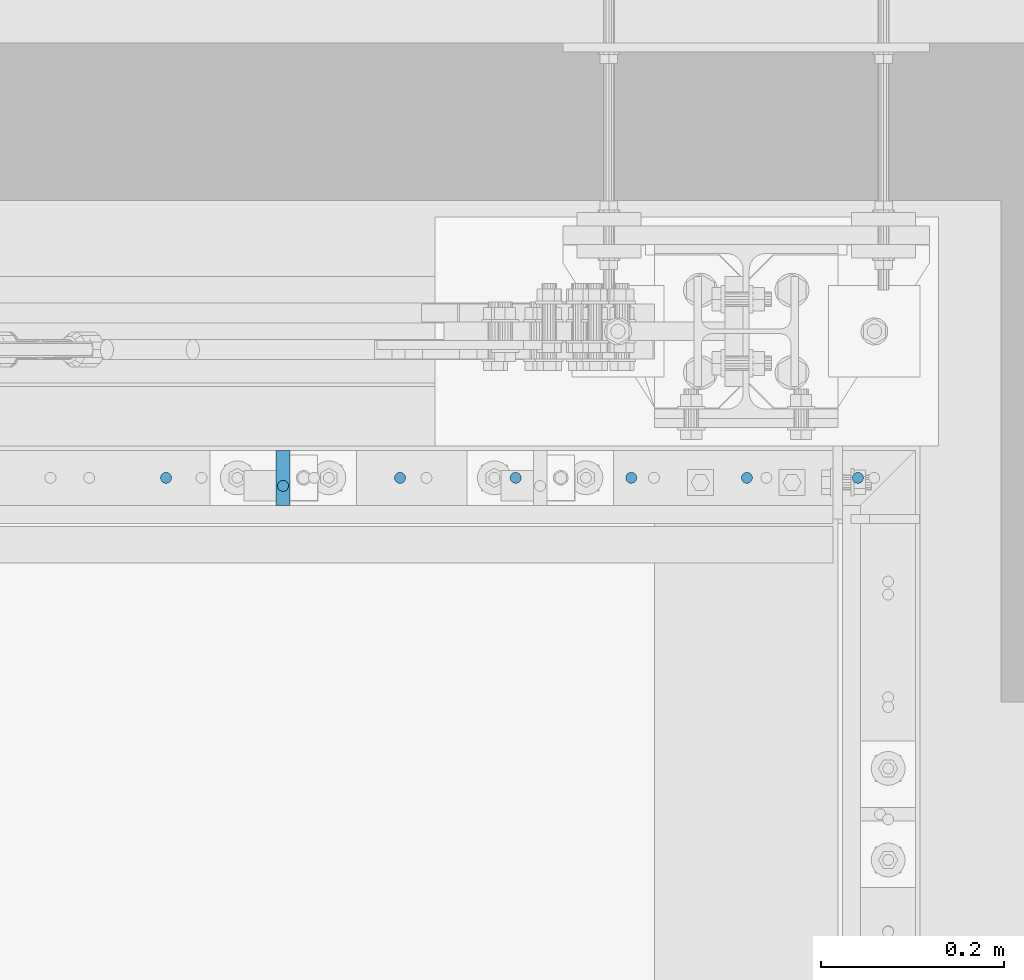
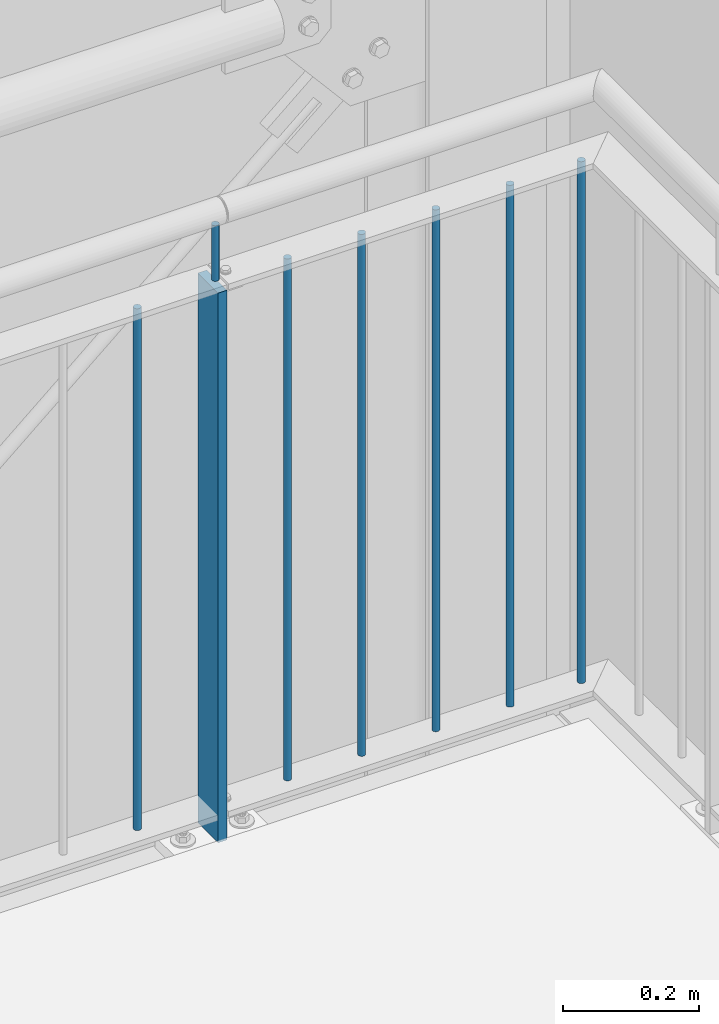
# One storey, part 111 of 831: 8 columns.
"""IFC2X3 building model written with IfcOpenShell, lengths in millimetres."""

from ifc_helpers import new_model, entity, si_unit, converted_unit, frame, origin, origin_with_axes, origin_2d, place, context, project, spatial, rectangle, circle, extrude, clip, halfspace, material, element, save


model = new_model("IFC2X3")

# Units and contexts
model_context = context("Model", 3, precision=1e-09, world=origin_with_axes())
ifc_project = project(units=[si_unit("LENGTHUNIT", "METRE", prefix="MILLI"), si_unit("AREAUNIT", "SQUARE_METRE"), si_unit("VOLUMEUNIT", "CUBIC_METRE"), converted_unit("PLANEANGLEUNIT", "DEGREE", entity("IfcPlaneAngleMeasure", 0.01745329), si_unit("PLANEANGLEUNIT", "RADIAN"), dimensions=[0, 0, 0, 0, 0, 0, 0])], contexts=[model_context])

# Site, building, storey
site_placement = place(None, origin_with_axes())
site = spatial("IfcSite", under=ifc_project, at=site_placement, Name="Site", CompositionType="ELEMENT")
building_placement = place(site_placement, origin_with_axes())
building = spatial("IfcBuilding", under=site, at=building_placement, Name="Struktur 1", CompositionType="ELEMENT")
storey_placement = place(building_placement, origin_with_axes())
storey = spatial("IfcBuildingStorey", under=building, at=storey_placement, Name="Default Storey", CompositionType="ELEMENT", Elevation=0.0)

# Columns
ifc_material = material(Name="S235JR")
column_1_placement = place(None, frame((8360.944225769, 7356.736971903, 3220.775923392), z_axis=(0.0, 0.0, 1.0), x_axis=(1.0, 0.0, 0.0)))
element("IfcColumn", 1, at=column_1_placement, inside=storey, material=ifc_material, Name="Railing_Post_Landing#3", ObjectType="Railing_Post_Landing#3", context=model_context, shape_type="Clipping", body=[
    clip(clip(extrude(rectangle(XDim=15.0, YDim=60.0, at=origin_2d()), origin(), (0.0, 0.0, -1.0), 1070.646584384), halfspace(frame((-8360.944225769, -7356.736971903, -1019.722292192), z_axis=(0.0, 0.0, 1.0), x_axis=(1.0, 0.0, 0.0)), True)), halfspace(frame((-8360.944225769, -7356.736971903, -30.924292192), z_axis=(0.0, 0.0, -1.0), x_axis=(-1.0, 0.0, 0.0)), True)),
])
column_2_placement = place(None, frame((8233.184225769, 7356.736971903, 3203.337912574), z_axis=(0.0, 0.0, 1.0), x_axis=(1.0, 0.0, 0.0)))
element("IfcColumn", 2, at=column_2_placement, inside=storey, material=ifc_material, Name="Railing_Picket_Landing#20", ObjectType="Railing_Picket_Landing#20", context=model_context, shape_type="Clipping", body=[
    clip(clip(extrude(circle(Radius=6.0, at=origin_2d()), origin(), (0.0, 0.0, -1.0), 965.770562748), halfspace(frame((-8233.184225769, -7356.736971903, -13.486281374), z_axis=(0.0, 0.0, -1.0), x_axis=(-1.0, 0.0, 0.0)), True)), halfspace(frame((-8233.184225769, -7356.736971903, -952.284281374), z_axis=(0.0, 0.0, 1.0), x_axis=(1.0, 0.0, 0.0)), True)),
])
column_3_placement = place(None, frame((8488.704225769, 7356.736971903, 3203.337912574), z_axis=(0.0, 0.0, 1.0), x_axis=(1.0, 0.0, 0.0)))
element("IfcColumn", 3, at=column_3_placement, inside=storey, material=ifc_material, Name="Railing_Picket_Landing#21", ObjectType="Railing_Picket_Landing#21", context=model_context, shape_type="Clipping", body=[
    clip(clip(extrude(circle(Radius=6.0, at=origin_2d()), origin(), (0.0, 0.0, -1.0), 965.770562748), halfspace(frame((-8488.704225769, -7356.736971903, -13.486281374), z_axis=(0.0, 0.0, -1.0), x_axis=(-1.0, 0.0, 0.0)), True)), halfspace(frame((-8488.704225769, -7356.736971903, -952.284281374), z_axis=(0.0, 0.0, 1.0), x_axis=(1.0, 0.0, 0.0)), True)),
])
column_4_placement = place(None, frame((8614.963745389, 7356.736971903, 3203.337912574), z_axis=(0.0, 0.0, 1.0), x_axis=(1.0, 0.0, 0.0)))
element("IfcColumn", 4, at=column_4_placement, inside=storey, material=ifc_material, Name="Railing_Picket_Landing#22", ObjectType="Railing_Picket_Landing#22", context=model_context, shape_type="Clipping", body=[
    clip(clip(extrude(circle(Radius=6.0, at=origin_2d()), origin(), (0.0, 0.0, -1.0), 965.770562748), halfspace(frame((-8614.963745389, -7356.736971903, -13.486281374), z_axis=(0.0, 0.0, -1.0), x_axis=(-1.0, 0.0, 0.0)), True)), halfspace(frame((-8614.963745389, -7356.736971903, -952.284281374), z_axis=(0.0, 0.0, 1.0), x_axis=(1.0, 0.0, 0.0)), True)),
])
column_5_placement = place(None, frame((8741.223265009, 7356.736971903, 3203.337912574), z_axis=(0.0, 0.0, 1.0), x_axis=(1.0, 0.0, 0.0)))
element("IfcColumn", 5, at=column_5_placement, inside=storey, material=ifc_material, Name="Railing_Picket_Landing#23", ObjectType="Railing_Picket_Landing#23", context=model_context, shape_type="Clipping", body=[
    clip(clip(extrude(circle(Radius=6.0, at=origin_2d()), origin(), (0.0, 0.0, -1.0), 965.770562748), halfspace(frame((-8741.223265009, -7356.736971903, -13.486281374), z_axis=(0.0, 0.0, -1.0), x_axis=(-1.0, 0.0, 0.0)), True)), halfspace(frame((-8741.223265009, -7356.736971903, -952.284281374), z_axis=(0.0, 0.0, 1.0), x_axis=(1.0, 0.0, 0.0)), True)),
])
column_6_placement = place(None, frame((8867.48278463, 7356.736971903, 3203.337912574), z_axis=(0.0, 0.0, 1.0), x_axis=(1.0, 0.0, 0.0)))
element("IfcColumn", 6, at=column_6_placement, inside=storey, material=ifc_material, Name="Railing_Picket_Landing#24", ObjectType="Railing_Picket_Landing#24", context=model_context, shape_type="Clipping", body=[
    clip(clip(extrude(circle(Radius=6.0, at=origin_2d()), origin(), (0.0, 0.0, -1.0), 965.770562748), halfspace(frame((-8867.48278463, -7356.736971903, -13.486281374), z_axis=(0.0, 0.0, -1.0), x_axis=(-1.0, 0.0, 0.0)), True)), halfspace(frame((-8867.48278463, -7356.736971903, -952.284281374), z_axis=(0.0, 0.0, 1.0), x_axis=(1.0, 0.0, 0.0)), True)),
])
column_7_placement = place(None, frame((8988.74230425, 7356.736971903, 3203.337912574), z_axis=(0.0, 0.0, 1.0), x_axis=(1.0, 0.0, 0.0)))
element("IfcColumn", 7, at=column_7_placement, inside=storey, material=ifc_material, Name="Railing_Picket_Landing#25", ObjectType="Railing_Picket_Landing#25", context=model_context, shape_type="Clipping", body=[
    clip(clip(extrude(circle(Radius=6.0, at=origin_2d()), origin(), (0.0, 0.0, -1.0), 965.770562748), halfspace(frame((-8988.74230425, -7356.736971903, -13.486281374), z_axis=(0.0, 0.0, -1.0), x_axis=(-1.0, 0.0, 0.0)), True)), halfspace(frame((-8988.74230425, -7356.736971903, -952.284281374), z_axis=(0.0, 0.0, 1.0), x_axis=(1.0, 0.0, 0.0)), True)),
])
column_8_placement = place(None, frame((8360.944225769, 7347.936971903, 3308.337912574), z_axis=(0.0, 0.0, 1.0), x_axis=(0.0, -1.0, 0.0)))
element("IfcColumn", 8, at=column_8_placement, inside=storey, material=ifc_material, Name="Bar#3", ObjectType="Bar#3", context=model_context, shape_type="Clipping", body=[
    clip(clip(extrude(circle(Radius=6.0, at=origin_2d()), origin(), (0.0, 0.0, -1.0), 116.970562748), halfspace(frame((7347.936971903, -8360.944225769, -8.486281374), z_axis=(0.0, 0.0, -1.0), x_axis=(0.0, -1.0, 0.0)), True)), halfspace(frame((7347.936971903, -8360.944225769, -108.484281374), z_axis=(0.0, 0.0, 1.0), x_axis=(0.0, 1.0, 0.0)), True)),
])

save(model, "model.ifc")
